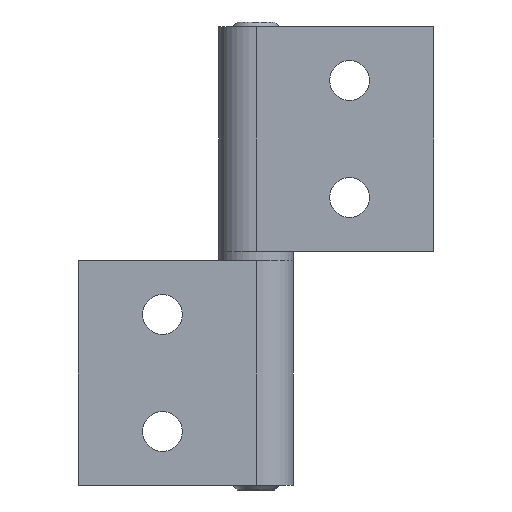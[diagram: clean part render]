
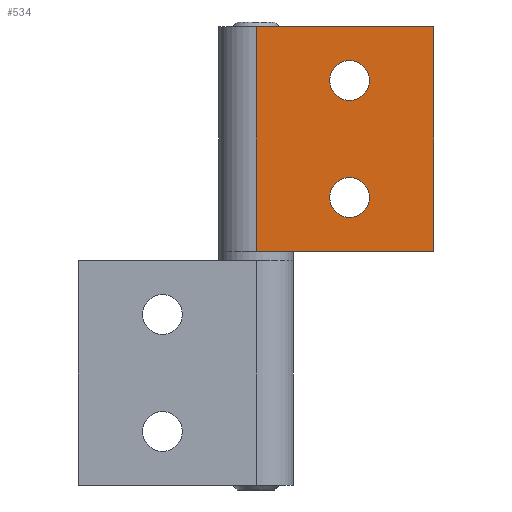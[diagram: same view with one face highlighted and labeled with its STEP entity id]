
A CAD part, front view. The second image highlights one B-rep face of the part: STEP entity #534.
In plain terms, the highlighted planar face has unit normal (0, -1, 0).
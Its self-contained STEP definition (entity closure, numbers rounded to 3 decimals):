
#21=FACE_BOUND('',#102,.T.);
#22=FACE_BOUND('',#103,.T.);
#37=PLANE('',#606);
#67=FACE_OUTER_BOUND('',#101,.T.);
#101=EDGE_LOOP('',(#413,#414,#415,#416));
#102=EDGE_LOOP('',(#417));
#103=EDGE_LOOP('',(#418));
#144=LINE('',#865,#183);
#149=LINE('',#876,#188);
#153=LINE('',#887,#192);
#154=LINE('',#889,#193);
#183=VECTOR('',#690,1000.);
#188=VECTOR('',#699,1000.);
#192=VECTOR('',#709,1000.);
#193=VECTOR('',#712,1000.);
#219=CIRCLE('',#592,4.25);
#220=CIRCLE('',#594,4.25);
#255=VERTEX_POINT('',#844);
#256=VERTEX_POINT('',#848);
#260=VERTEX_POINT('',#859);
#262=VERTEX_POINT('',#863);
#266=VERTEX_POINT('',#875);
#269=VERTEX_POINT('',#883);
#306=EDGE_CURVE('',#255,#255,#219,.T.);
#308=EDGE_CURVE('',#256,#256,#220,.T.);
#316=EDGE_CURVE('',#260,#262,#144,.T.);
#321=EDGE_CURVE('',#260,#266,#149,.T.);
#327=EDGE_CURVE('',#266,#269,#153,.T.);
#328=EDGE_CURVE('',#262,#269,#154,.T.);
#413=ORIENTED_EDGE('',*,*,#328,.T.);
#414=ORIENTED_EDGE('',*,*,#327,.F.);
#415=ORIENTED_EDGE('',*,*,#321,.F.);
#416=ORIENTED_EDGE('',*,*,#316,.T.);
#417=ORIENTED_EDGE('',*,*,#306,.T.);
#418=ORIENTED_EDGE('',*,*,#308,.T.);
#534=ADVANCED_FACE('',(#67,#21,#22),#37,.F.);
#592=AXIS2_PLACEMENT_3D('',#845,#668,#669);
#594=AXIS2_PLACEMENT_3D('',#849,#673,#674);
#606=AXIS2_PLACEMENT_3D('',#888,#710,#711);
#668=DIRECTION('center_axis',(0.,1.,0.));
#669=DIRECTION('ref_axis',(0.,0.,1.));
#673=DIRECTION('center_axis',(0.,1.,0.));
#674=DIRECTION('ref_axis',(0.,0.,1.));
#690=DIRECTION('',(0.,0.,-1.));
#699=DIRECTION('',(1.,0.,0.));
#709=DIRECTION('',(0.,0.,-1.));
#710=DIRECTION('center_axis',(0.,1.,0.));
#711=DIRECTION('ref_axis',(0.,0.,1.));
#712=DIRECTION('',(1.,0.,0.));
#844=CARTESIAN_POINT('',(-5.512,5.327,113.654));
#845=CARTESIAN_POINT('Origin',(-5.512,5.327,117.904));
#848=CARTESIAN_POINT('',(-5.512,5.327,88.654));
#849=CARTESIAN_POINT('Origin',(-5.512,5.327,92.904));
#859=CARTESIAN_POINT('',(-25.512,5.327,129.404));
#863=CARTESIAN_POINT('',(-25.512,5.327,81.404));
#865=CARTESIAN_POINT('',(-25.512,5.327,129.404));
#875=CARTESIAN_POINT('',(12.488,5.327,129.404));
#876=CARTESIAN_POINT('',(-25.512,5.327,129.404));
#883=CARTESIAN_POINT('',(12.488,5.327,81.404));
#887=CARTESIAN_POINT('',(12.488,5.327,129.404));
#888=CARTESIAN_POINT('Origin',(-25.512,5.327,129.404));
#889=CARTESIAN_POINT('',(-25.512,5.327,81.404));
